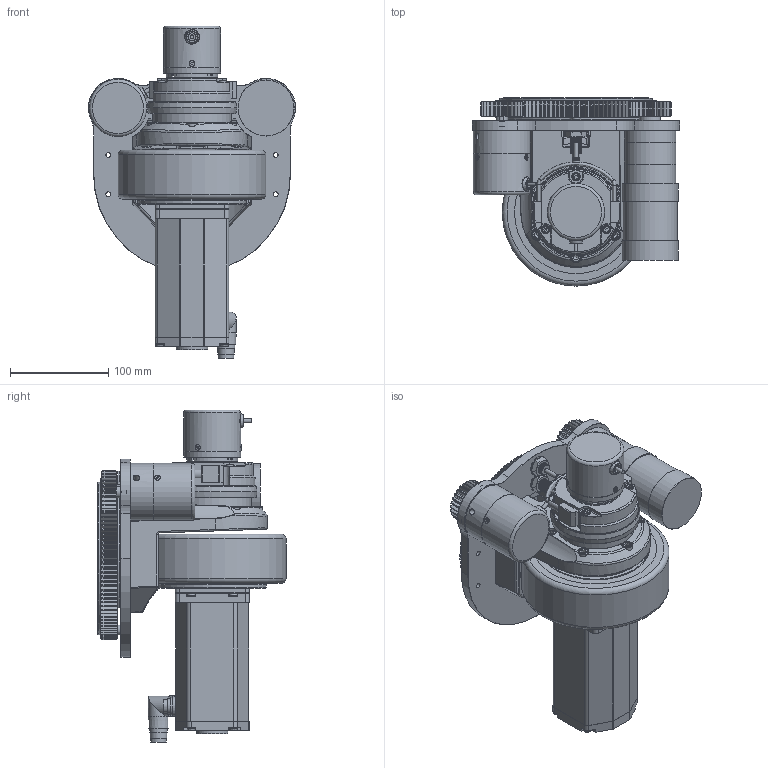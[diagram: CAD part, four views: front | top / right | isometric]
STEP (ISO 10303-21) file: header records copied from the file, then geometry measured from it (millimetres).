
FILE_DESCRIPTION (( 'STEP AP214' ), '1' );
FILE_NAME ('ZLW-190-7550-904.STEP', '2019-04-23T23:41:13', ( '' ), ( '' ), 'SwSTEP 2.0', 'SolidWorks 2016', '' );
FILE_SCHEMA (( 'AUTOMOTIVE_DESIGN' ));
Length unit declared in the file: millimetre
Products named in the file (1): ZLW-190-7550-904
Bounding box: 210.4 x 191 x 337.25 mm (x, y, z)
Surface area: 428434.9 mm2 (no closed solid volume)
Topology: 0 solids, 114 shells, 1831 faces, 5956 edges, 4166 vertices
Faces by surface type: cylinder 933, plane 447, cone 302, bspline 75, torus 63, sphere 11
Full cylindrical faces by diameter (mm): 1.5 x2, 4 x2, 4.5 x2, 4.66 x4, 4.7 x3, 5 x17, 5.1 x1, 5.2 x4, 5.54 x5, 5.61 x8, 6 x5, 7 x3, 7.53 x1, 8 x11, 8.5 x5, 9 x8, 10 x4, 11 x14, 11.7 x1, 12 x2, 13.7 x1, 14.2 x1, 15 x1, 15.6 x1, 15.7 x1, 16 x1, 17 x1, 17.8 x1, 18 x1, 20 x2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
Entity records: 99250 total; most frequent: CARTESIAN_POINT 29798, DIRECTION 10591, ORIENTED_EDGE 8861, EDGE_CURVE 5562, AXIS2_PLACEMENT_3D 4296, VERTEX_POINT 4073, CIRCLE 2539, EDGE_LOOP 2362
